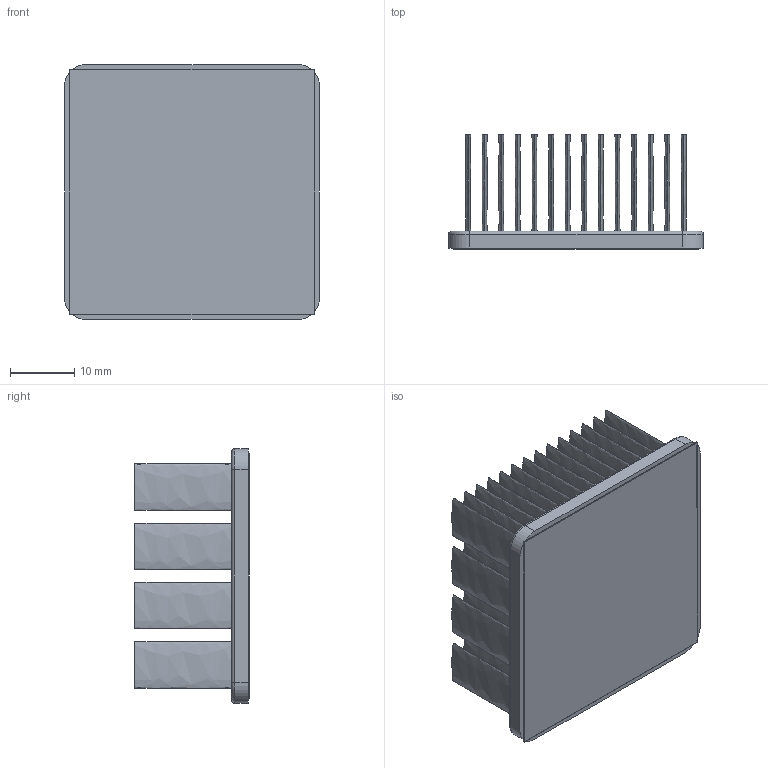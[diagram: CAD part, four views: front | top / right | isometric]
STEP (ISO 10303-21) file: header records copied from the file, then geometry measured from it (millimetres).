
FILE_DESCRIPTION (( 'STEP AP214' ), '1' );
FILE_NAME ('INM40001-18W-2.6.STEP', '2023-02-21T17:38:57', ( '' ), ( '' ), 'SwSTEP 2.0', 'SolidWorks 2020', '' );
FILE_SCHEMA (( 'AUTOMOTIVE_DESIGN' ));
Length unit declared in the file: inch
Products named in the file (1): INM40001-18W-2.6
Bounding box: 39.6 x 17.73 x 39.6 mm (x, y, z)
Volume: 8096.2 mm3; surface area: 18744.5 mm2
Topology: 2 solids, 2 shells, 192 faces, 388 edges, 256 vertices
Faces by surface type: bspline 112, plane 68, cylinder 8, torus 4
Entity records: 7791 total; most frequent: CARTESIAN_POINT 2293, ORIENTED_EDGE 776, EDGE_CURVE 388, DIRECTION 346, VERTEX_POINT 256, EDGE_LOOP 248, LENGTH_MEASURE_WITH_UNIT 196, UNCERTAINTY_MEASURE_WITH_UNIT 196
